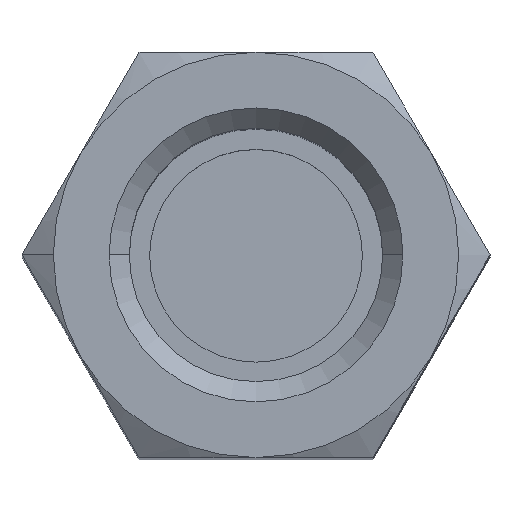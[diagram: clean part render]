
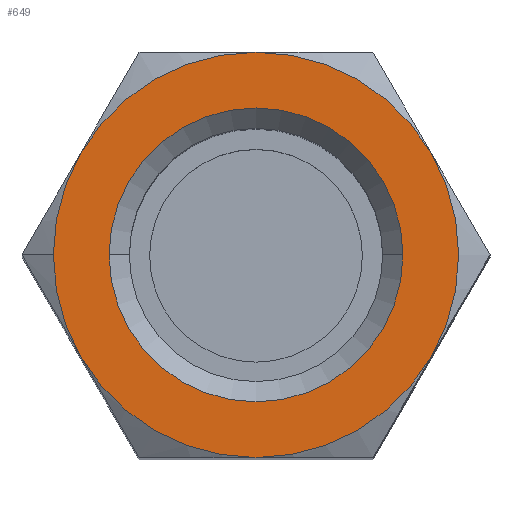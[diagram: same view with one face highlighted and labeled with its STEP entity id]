
A CAD part, top view. The second image highlights one B-rep face of the part: STEP entity #649.
In plain terms, the highlighted planar face has unit normal (0, 0, 1).
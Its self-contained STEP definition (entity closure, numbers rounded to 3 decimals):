
#22 = DIRECTION ( 'NONE',  ( -1., 0., 0. ) ) ;
#34 = EDGE_CURVE ( 'NONE', #785, #709, #1128, .T. ) ;
#57 = PLANE ( 'NONE',  #598 ) ;
#70 = CIRCLE ( 'NONE', #555, 4. ) ;
#91 = EDGE_LOOP ( 'NONE', ( #886, #272, #441, #341, #187, #248, #570 ) ) ;
#102 = CARTESIAN_POINT ( 'NONE',  ( 2.9, 0., 12.5 ) ) ;
#120 = DIRECTION ( 'NONE',  ( 0., 0., -1. ) ) ;
#152 = CARTESIAN_POINT ( 'NONE',  ( 0., 0., 12.5 ) ) ;
#167 = CARTESIAN_POINT ( 'NONE',  ( 0., 0., 12.5 ) ) ;
#170 = CIRCLE ( 'NONE', #813, 4. ) ;
#179 = VERTEX_POINT ( 'NONE', #833 ) ;
#187 = ORIENTED_EDGE ( 'NONE', *, *, #788, .T. ) ;
#192 = CARTESIAN_POINT ( 'NONE',  ( 0., 0., 12.5 ) ) ;
#194 = AXIS2_PLACEMENT_3D ( 'NONE', #152, #1027, #771 ) ;
#210 = CARTESIAN_POINT ( 'NONE',  ( 0., 0., 12.5 ) ) ;
#217 = CARTESIAN_POINT ( 'NONE',  ( -3.464, 2., 12.5 ) ) ;
#222 = EDGE_CURVE ( 'NONE', #245, #1155, #70, .T. ) ;
#242 = CARTESIAN_POINT ( 'NONE',  ( 0., 0., 12.5 ) ) ;
#245 = VERTEX_POINT ( 'NONE', #217 ) ;
#247 = CARTESIAN_POINT ( 'NONE',  ( -3.464, -2., 12.5 ) ) ;
#248 = ORIENTED_EDGE ( 'NONE', *, *, #339, .T. ) ;
#272 = ORIENTED_EDGE ( 'NONE', *, *, #981, .T. ) ;
#279 = ORIENTED_EDGE ( 'NONE', *, *, #876, .T. ) ;
#282 = ORIENTED_EDGE ( 'NONE', *, *, #776, .T. ) ;
#291 = CIRCLE ( 'NONE', #194, 2.9 ) ;
#325 = DIRECTION ( 'NONE',  ( -1., 0., 0. ) ) ;
#339 = EDGE_CURVE ( 'NONE', #606, #781, #170, .T. ) ;
#341 = ORIENTED_EDGE ( 'NONE', *, *, #1013, .T. ) ;
#365 = CIRCLE ( 'NONE', #391, 2.9 ) ;
#377 = EDGE_CURVE ( 'NONE', #245, #781, #1031, .T. ) ;
#391 = AXIS2_PLACEMENT_3D ( 'NONE', #242, #607, #973 ) ;
#418 = DIRECTION ( 'NONE',  ( -1., 0., 0. ) ) ;
#431 = CARTESIAN_POINT ( 'NONE',  ( 0., 0., 12.5 ) ) ;
#441 = ORIENTED_EDGE ( 'NONE', *, *, #34, .T. ) ;
#472 = DIRECTION ( 'NONE',  ( 1., 0., 0. ) ) ;
#477 = AXIS2_PLACEMENT_3D ( 'NONE', #431, #614, #325 ) ;
#479 = CIRCLE ( 'NONE', #1129, 4. ) ;
#513 = CARTESIAN_POINT ( 'NONE',  ( 0., 4., 12.5 ) ) ;
#527 = DIRECTION ( 'NONE',  ( -1., 0., 0. ) ) ;
#529 = DIRECTION ( 'NONE',  ( 0., 0., 1. ) ) ;
#555 = AXIS2_PLACEMENT_3D ( 'NONE', #210, #599, #575 ) ;
#570 = ORIENTED_EDGE ( 'NONE', *, *, #377, .F. ) ;
#575 = DIRECTION ( 'NONE',  ( -1., 0., 0. ) ) ;
#598 = AXIS2_PLACEMENT_3D ( 'NONE', #923, #120, #472 ) ;
#599 = DIRECTION ( 'NONE',  ( 0., 0., 1. ) ) ;
#606 = VERTEX_POINT ( 'NONE', #669 ) ;
#607 = DIRECTION ( 'NONE',  ( 0., 0., -1. ) ) ;
#614 = DIRECTION ( 'NONE',  ( 0., 0., -1. ) ) ;
#630 = VERTEX_POINT ( 'NONE', #1120 ) ;
#649 = ADVANCED_FACE ( 'NONE', ( #742, #1116 ), #57, .F. ) ;
#663 = CARTESIAN_POINT ( 'NONE',  ( 0., -4., 12.5 ) ) ;
#669 = CARTESIAN_POINT ( 'NONE',  ( 3.464, 2., 12.5 ) ) ;
#708 = DIRECTION ( 'NONE',  ( 0., 0., 1. ) ) ;
#709 = VERTEX_POINT ( 'NONE', #663 ) ;
#742 = FACE_BOUND ( 'NONE', #952, .T. ) ;
#771 = DIRECTION ( 'NONE',  ( -1., 0., 0. ) ) ;
#776 = EDGE_CURVE ( 'NONE', #914, #179, #291, .T. ) ;
#779 = CARTESIAN_POINT ( 'NONE',  ( 0., 0., 12.5 ) ) ;
#781 = VERTEX_POINT ( 'NONE', #513 ) ;
#785 = VERTEX_POINT ( 'NONE', #247 ) ;
#788 = EDGE_CURVE ( 'NONE', #630, #606, #479, .T. ) ;
#798 = CARTESIAN_POINT ( 'NONE',  ( -4., 0., 12.5 ) ) ;
#801 = CARTESIAN_POINT ( 'NONE',  ( 0., 0., 12.5 ) ) ;
#813 = AXIS2_PLACEMENT_3D ( 'NONE', #859, #708, #418 ) ;
#833 = CARTESIAN_POINT ( 'NONE',  ( -2.9, 0., 12.5 ) ) ;
#856 = CIRCLE ( 'NONE', #871, 4. ) ;
#859 = CARTESIAN_POINT ( 'NONE',  ( 0., 0., 12.5 ) ) ;
#871 = AXIS2_PLACEMENT_3D ( 'NONE', #192, #1086, #22 ) ;
#876 = EDGE_CURVE ( 'NONE', #179, #914, #365, .T. ) ;
#886 = ORIENTED_EDGE ( 'NONE', *, *, #222, .T. ) ;
#895 = DIRECTION ( 'NONE',  ( -1., 0., 0. ) ) ;
#914 = VERTEX_POINT ( 'NONE', #102 ) ;
#923 = CARTESIAN_POINT ( 'NONE',  ( 0., 0., 12.5 ) ) ;
#942 = AXIS2_PLACEMENT_3D ( 'NONE', #801, #1065, #527 ) ;
#952 = EDGE_LOOP ( 'NONE', ( #282, #279 ) ) ;
#973 = DIRECTION ( 'NONE',  ( -1., 0., 0. ) ) ;
#981 = EDGE_CURVE ( 'NONE', #1155, #785, #1022, .T. ) ;
#1013 = EDGE_CURVE ( 'NONE', #709, #630, #856, .T. ) ;
#1022 = CIRCLE ( 'NONE', #1035, 4. ) ;
#1027 = DIRECTION ( 'NONE',  ( 0., 0., -1. ) ) ;
#1031 = CIRCLE ( 'NONE', #477, 4. ) ;
#1033 = DIRECTION ( 'NONE',  ( 0., 0., 1. ) ) ;
#1035 = AXIS2_PLACEMENT_3D ( 'NONE', #167, #529, #895 ) ;
#1043 = DIRECTION ( 'NONE',  ( -1., 0., 0. ) ) ;
#1065 = DIRECTION ( 'NONE',  ( 0., 0., 1. ) ) ;
#1086 = DIRECTION ( 'NONE',  ( 0., 0., 1. ) ) ;
#1116 = FACE_OUTER_BOUND ( 'NONE', #91, .T. ) ;
#1120 = CARTESIAN_POINT ( 'NONE',  ( 3.464, -2., 12.5 ) ) ;
#1128 = CIRCLE ( 'NONE', #942, 4. ) ;
#1129 = AXIS2_PLACEMENT_3D ( 'NONE', #779, #1033, #1043 ) ;
#1155 = VERTEX_POINT ( 'NONE', #798 ) ;
